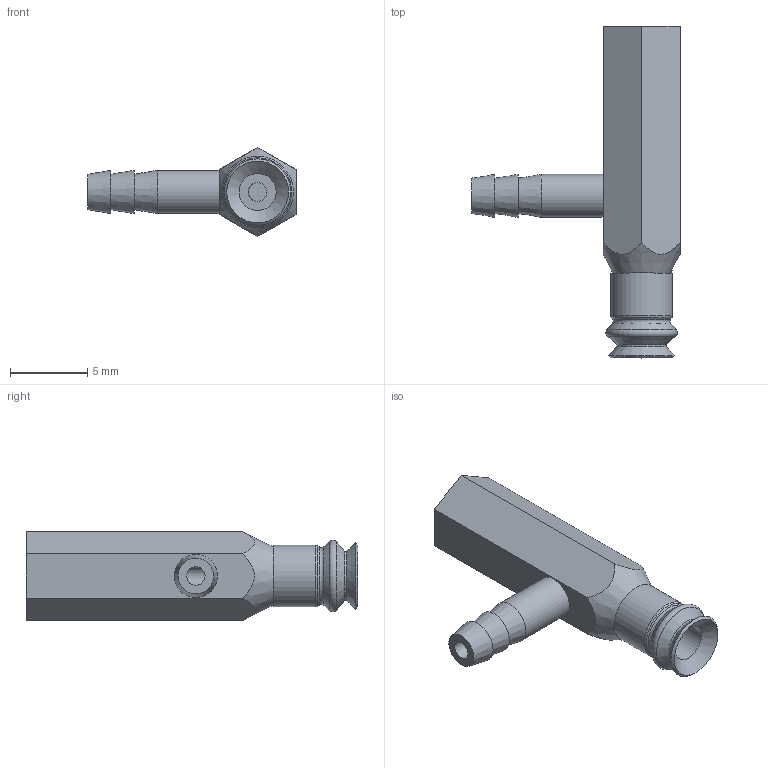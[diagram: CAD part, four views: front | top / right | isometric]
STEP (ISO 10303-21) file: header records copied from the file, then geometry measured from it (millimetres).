
FILE_DESCRIPTION(('STEP AP203'),'1');
FILE_NAME('.stp','2025-04-23T02:32:23',(' '),(' '),'Spatial InterOp 3D',' ',' ');
FILE_SCHEMA(('CONFIG_CONTROL_DESIGN'));
Length unit declared in the file: millimetre
Products named in the file (3): BBPJYK-4-※; PFYK-1.5A; BPJG-4-※
Assembly tree (2 placements, depth 2):
  BBPJYK-4-※
    PFYK-1.5A
    BPJG-4-※
Bounding box: 13.5 x 21.5 x 5.77 mm (x, y, z)
Volume: 391.3 mm3; surface area: 651 mm2
Topology: 2 solids, 2 shells, 50 faces, 107 edges, 66 vertices
Faces by surface type: plane 16, cone 13, cylinder 11, torus 10
Full cylindrical faces by diameter (mm): 1.2 x2, 2 x2, 2.4 x1, 2.459 x1, 2.8 x1, 3 x2, 4 x1
Entity records: 1318 total; most frequent: CARTESIAN_POINT 270, DIRECTION 204, ORIENTED_EDGE 124, AXIS2_PLACEMENT_3D 96, EDGE_LOOP 91, FACE_OUTER_BOUND 69, EDGE_CURVE 62, VERTEX_POINT 56
